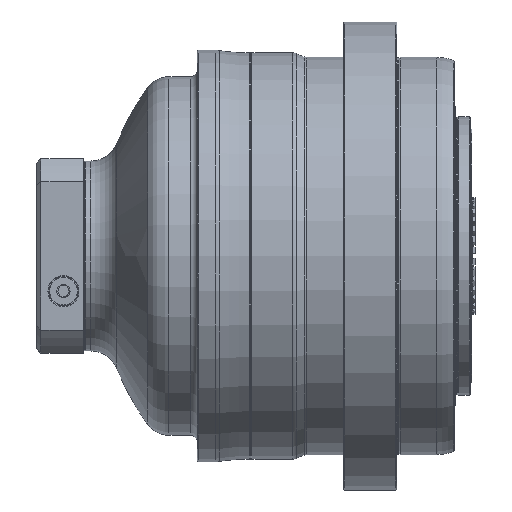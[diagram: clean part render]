
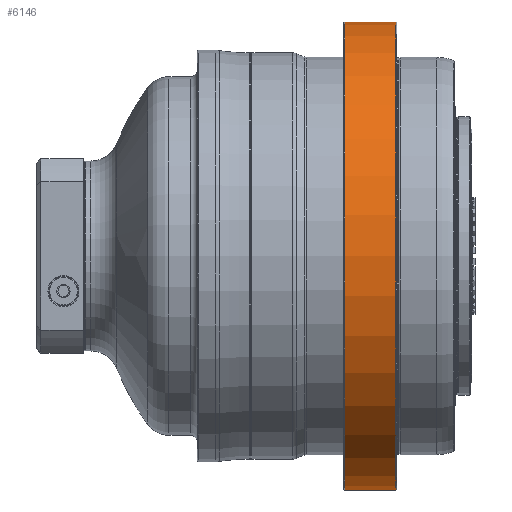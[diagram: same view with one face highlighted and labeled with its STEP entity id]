
A CAD part, top view. The second image highlights one B-rep face of the part: STEP entity #6146.
In plain terms, the highlighted cylindrical face has radius 265 mm (diameter 530 mm), a partial arc.
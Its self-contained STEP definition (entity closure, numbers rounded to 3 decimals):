
#1767=CARTESIAN_POINT('',(-1.,0.,0.));
#1768=DIRECTION('',(-1.,0.,0.));
#1769=DIRECTION('',(0.,-1.,0.));
#1770=AXIS2_PLACEMENT_3D('',#1767,#1768,#1769);
#1787=CARTESIAN_POINT('',(-59.,0.,0.));
#1788=DIRECTION('',(-1.,0.,0.));
#1789=DIRECTION('',(0.,-1.,0.));
#1790=AXIS2_PLACEMENT_3D('',#1787,#1788,#1789);
#1812=DIRECTION('',(-1.,0.,0.));
#1813=VECTOR('',#1812,58.);
#1814=CARTESIAN_POINT('',(-1.,-265.,0.));
#1815=LINE('',#1814,#1813);
#1816=DIRECTION('',(-1.,0.,0.));
#1817=VECTOR('',#1816,58.);
#1818=CARTESIAN_POINT('',(-1.,265.,0.));
#1819=LINE('',#1818,#1817);
#2803=CARTESIAN_POINT('',(-1.,-265.,0.));
#2804=CARTESIAN_POINT('',(-1.,265.,0.));
#2805=VERTEX_POINT('',#2803);
#2806=VERTEX_POINT('',#2804);
#2815=CARTESIAN_POINT('',(-59.,-265.,0.));
#2816=CARTESIAN_POINT('',(-59.,265.,0.));
#2817=VERTEX_POINT('',#2815);
#2818=VERTEX_POINT('',#2816);
#6132=CARTESIAN_POINT('',(-176.5,0.,0.));
#6133=DIRECTION('',(1.,0.,0.));
#6134=DIRECTION('',(0.,-1.,0.));
#6135=AXIS2_PLACEMENT_3D('',#6132,#6133,#6134);
#6136=CYLINDRICAL_SURFACE('',#6135,265.);
#6138=ORIENTED_EDGE('',*,*,#6137,.T.);
#6140=ORIENTED_EDGE('',*,*,#6139,.F.);
#6141=ORIENTED_EDGE('',*,*,#6122,.F.);
#6143=ORIENTED_EDGE('',*,*,#6142,.T.);
#6144=EDGE_LOOP('',(#6138,#6140,#6141,#6143));
#6145=FACE_OUTER_BOUND('',#6144,.F.);
#6146=ADVANCED_FACE('',(#6145),#6136,.T.);
#1771=CIRCLE('',#1770,265.);
#1791=CIRCLE('',#1790,265.);
#6122=EDGE_CURVE('',#2805,#2806,#1771,.T.);
#6137=EDGE_CURVE('',#2817,#2818,#1791,.T.);
#6139=EDGE_CURVE('',#2806,#2818,#1819,.T.);
#6142=EDGE_CURVE('',#2805,#2817,#1815,.T.);
